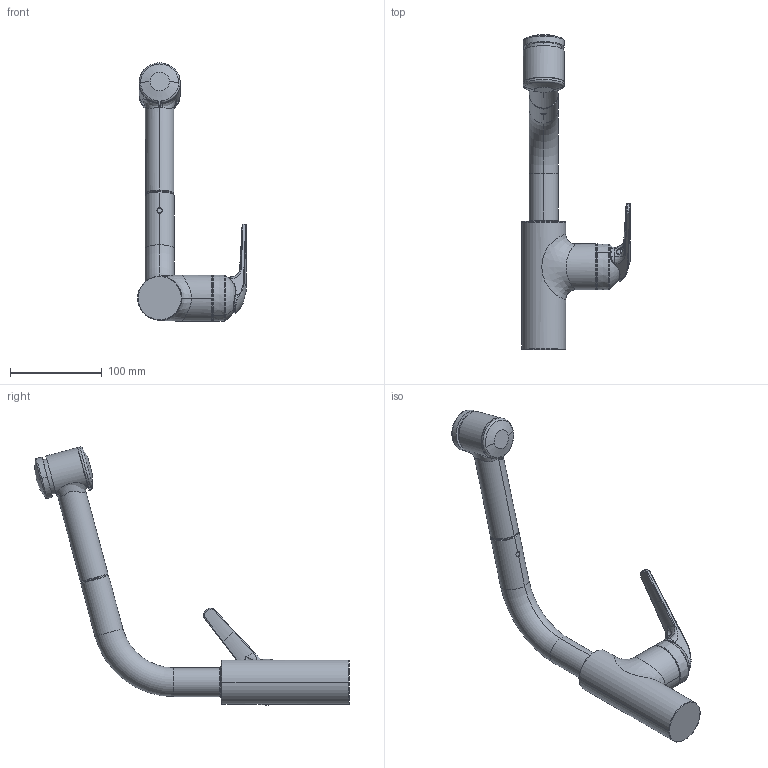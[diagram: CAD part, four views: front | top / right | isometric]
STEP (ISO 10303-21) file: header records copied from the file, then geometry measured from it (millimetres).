
FILE_DESCRIPTION((''),'2;1');
FILE_NAME('10_061_003_XXX','2012-06-05T',('azb9'),(''),'PRO/ENGINEER BY PARAMETRIC TECHNOLOGY CORPORATION, 2011080','PRO/ENGINEER BY PARAMETRIC TECHNOLOGY CORPORATION, 2011080','');
FILE_SCHEMA(('AUTOMOTIVE_DESIGN_CC2 { 1 2 10303 214 -1 1 5 2 }'));
Length unit declared in the file: millimetre
Products named in the file (1): 10_061_003_XXX
Bounding box: 118.49 x 342.96 x 281.45 mm (x, y, z)
Volume: 713028.3 mm3; surface area: 81815.4 mm2
Topology: 2 solids, 2 shells, 173 faces, 394 edges, 228 vertices
Faces by surface type: bspline 67, cylinder 43, torus 30, plane 19, sphere 8, cone 6
Entity records: 13694 total; most frequent: CARTESIAN_POINT 8125, ORIENTED_EDGE 780, DIRECTION 644, EDGE_CURVE 390, FILL_AREA_STYLE_COLOUR 345, FILL_AREA_STYLE 345, SURFACE_STYLE_FILL_AREA 345, SURFACE_SIDE_STYLE 345
